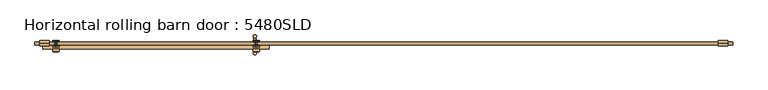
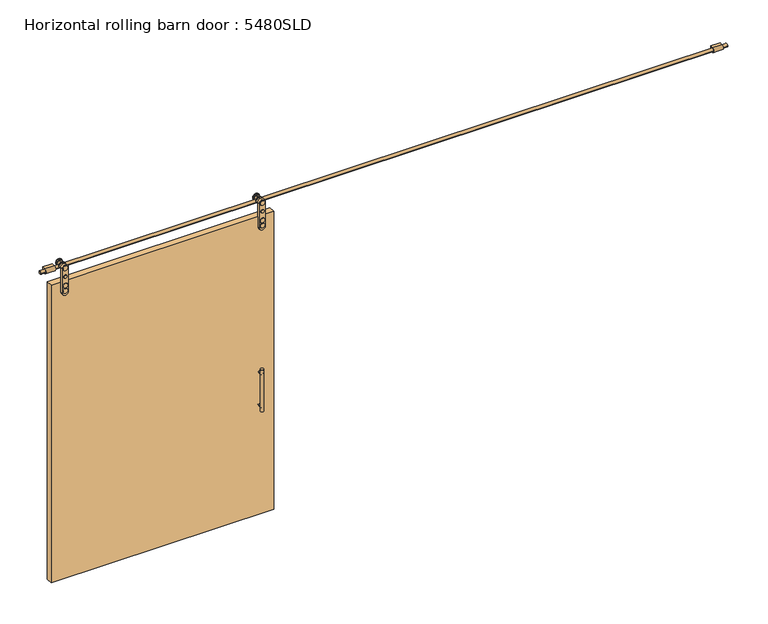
"""IFC4 building model written with IfcOpenShell, lengths in millimetres: door geometry, Horizontal rolling barn door : 5480SLD."""

from ifc_helpers import new_model, si_unit, point, frame, frame_2d, origin, origin_with_axes, place, context, project, spatial, polyline, circle_curve, ellipse_curve, trimmed, segment, composite_curve, outline, extrude, source, transform, mapped, element, save
from ifc_brep_helpers import plane_surface, cylinder_surface, revolved_surface, advanced_brep


def horizontal_rolling_barn_door_5480sld_e0d32aa0(model_context):
    return source(origin(), model_context, "Body", "SolidModel", [
        extrude(outline(polyline([(31.75, -127.0), (-1746.25, -127.0), (-1746.25, -76.2), (31.75, -76.2), (31.75, -127.0)])), origin_with_axes(), (0.0, 0.0, 1.0), 2514.6),
        extrude(outline(composite_curve([segment(trimmed(circle_curve(frame_2d((922.9256029, -79.640944)), 9.790944), [point((922.9256029, -89.4318879))], [point((922.9256029, -69.85))], False, "CARTESIAN"), True, "CONTINUOUS"), segment(trimmed(circle_curve(frame_2d((922.9256029, -79.640944)), 9.790944), [point((922.9256029, -69.85))], [point((922.9256029, -89.4318879))], False, "CARTESIAN"), True, "CONTINUOUS")], self_intersect=False)), frame((0.0, -127.0, 0.0), z_axis=(0.0, 1.0, 0.0), x_axis=(0.0, 0.0, 1.0)), (0.0, 0.0, 1.0), 88.9),
        extrude(outline(composite_curve([segment(trimmed(circle_curve(frame_2d((1202.3256029, -79.640944)), 9.790944), [point((1202.3256029, -89.4318879))], [point((1202.3256029, -69.85))], False, "CARTESIAN"), True, "CONTINUOUS"), segment(trimmed(circle_curve(frame_2d((1202.3256029, -79.640944)), 9.790944), [point((1202.3256029, -69.85))], [point((1202.3256029, -89.4318879))], False, "CARTESIAN"), True, "CONTINUOUS")], self_intersect=False)), frame((0.0, -127.0, 0.0), z_axis=(0.0, 1.0, 0.0), x_axis=(0.0, 0.0, 1.0)), (0.0, 0.0, 1.0), 88.9),
        extrude(outline(composite_curve([segment(trimmed(circle_curve(frame_2d((922.9256029, -79.640944)), 9.790944), [point((922.9256029, -89.4318879))], [point((922.9256029, -69.85))], False, "CARTESIAN"), True, "CONTINUOUS"), segment(trimmed(circle_curve(frame_2d((922.9256029, -79.640944)), 9.790944), [point((922.9256029, -69.85))], [point((922.9256029, -89.4318879))], False, "CARTESIAN"), True, "CONTINUOUS")], self_intersect=False)), frame((0.0, -165.1, 0.0), z_axis=(0.0, 1.0, 0.0), x_axis=(0.0, 0.0, 1.0)), (0.0, 0.0, 1.0), 38.1),
        extrude(outline(composite_curve([segment(trimmed(circle_curve(frame_2d((1202.3256029, -79.640944)), 9.790944), [point((1202.3256029, -89.4318879))], [point((1202.3256029, -69.85))], False, "CARTESIAN"), True, "CONTINUOUS"), segment(trimmed(circle_curve(frame_2d((1202.3256029, -79.640944)), 9.790944), [point((1202.3256029, -69.85))], [point((1202.3256029, -89.4318879))], False, "CARTESIAN"), True, "CONTINUOUS")], self_intersect=False)), frame((0.0, -165.1, 0.0), z_axis=(0.0, 1.0, 0.0), x_axis=(0.0, 0.0, 1.0)), (0.0, 0.0, 1.0), 38.1),
        advanced_brep(
        [(-69.85, -69.85, 2654.3), (-69.85, -69.85, 2616.2), (-69.85, -63.5, 2616.2), (-69.85, -63.5, 2654.3), (-69.85, -63.5, 2609.85), (-69.85, -63.5, 2660.65), (-69.85, -57.15, 2609.85), (-69.85, -57.15, 2660.65), (-69.85, -57.15, 2635.25), (-69.85, -107.95, 2635.25), (-69.85, -107.95, 2609.85), (-69.85, -107.95, 2660.65), (-69.85, -101.6, 2609.85), (-69.85, -101.6, 2660.65), (-69.85, -101.6, 2616.2), (-69.85, -101.6, 2654.3), (-69.85, -95.25, 2616.2), (-69.85, -95.25, 2654.3)],
        [
            (0, 1, circle_curve(frame((-69.85, -69.85, 2635.25), z_axis=(0.0, 1.0, 0.0), x_axis=(0.0, 0.0, -1.0)), 19.05)),
            (1, 2),
            (2, 3, circle_curve(frame((-69.85, -63.5, 2635.25), z_axis=(0.0, -1.0, 0.0), x_axis=(0.0, 0.0, -1.0)), 19.05)),
            (3, 0),
            (1, 0, circle_curve(frame((-69.85, -69.85, 2635.25), z_axis=(0.0, 1.0, 0.0), x_axis=(0.0, 0.0, -1.0)), 19.05)),
            (3, 2, circle_curve(frame((-69.85, -63.5, 2635.25), z_axis=(0.0, -1.0, 0.0), x_axis=(0.0, 0.0, -1.0)), 19.05)),
            (2, 4),
            (4, 5, circle_curve(frame((-69.85, -63.5, 2635.25), z_axis=(0.0, -1.0, 0.0), x_axis=(0.0, 0.0, -1.0)), 25.4)),
            (5, 3),
            (5, 4, circle_curve(frame((-69.85, -63.5, 2635.25), z_axis=(0.0, -1.0, 0.0), x_axis=(0.0, 0.0, -1.0)), 25.4)),
            (4, 6),
            (6, 7, circle_curve(frame((-69.85, -57.15, 2635.25), z_axis=(0.0, -1.0, 0.0), x_axis=(0.0, 0.0, -1.0)), 25.4)),
            (7, 5),
            (7, 6, circle_curve(frame((-69.85, -57.15, 2635.25), z_axis=(0.0, -1.0, 0.0), x_axis=(0.0, 0.0, -1.0)), 25.4)),
            (6, 8),
            (8, 7),
            (9, 10),
            (10, 11, circle_curve(frame((-69.85, -107.95, 2635.25), z_axis=(0.0, -1.0, 0.0), x_axis=(0.0, 0.0, -1.0)), 25.4)),
            (11, 9),
            (11, 10, circle_curve(frame((-69.85, -107.95, 2635.25), z_axis=(0.0, -1.0, 0.0), x_axis=(0.0, 0.0, -1.0)), 25.4)),
            (10, 12),
            (12, 13, circle_curve(frame((-69.85, -101.6, 2635.25), z_axis=(0.0, -1.0, 0.0), x_axis=(0.0, 0.0, -1.0)), 25.4)),
            (13, 11),
            (13, 12, circle_curve(frame((-69.85, -101.6, 2635.25), z_axis=(0.0, -1.0, 0.0), x_axis=(0.0, 0.0, -1.0)), 25.4)),
            (12, 14),
            (14, 15, circle_curve(frame((-69.85, -101.6, 2635.25), z_axis=(0.0, -1.0, 0.0), x_axis=(0.0, 0.0, -1.0)), 19.05)),
            (15, 13),
            (15, 14, circle_curve(frame((-69.85, -101.6, 2635.25), z_axis=(0.0, -1.0, 0.0), x_axis=(0.0, 0.0, -1.0)), 19.05)),
            (14, 16),
            (16, 17, circle_curve(frame((-69.85, -95.25, 2635.25), z_axis=(0.0, -1.0, 0.0), x_axis=(0.0, 0.0, -1.0)), 19.05)),
            (17, 15),
            (17, 16, circle_curve(frame((-69.85, -95.25, 2635.25), z_axis=(0.0, -1.0, 0.0), x_axis=(0.0, 0.0, -1.0)), 19.05)),
            (16, 1, circle_curve(frame((-69.85, -82.55, 2616.2), z_axis=(-1.0, 0.0, 0.0), x_axis=(0.0, 0.0, -1.0)), 12.7)),
            (0, 17, circle_curve(frame((-69.85, -82.55, 2654.3), z_axis=(-1.0, 0.0, 0.0), x_axis=(0.0, 0.0, 1.0)), 12.7)),
        ],
        [
            cylinder_surface(frame((-69.85, -57.15, 2635.25), z_axis=(0.0, -1.0, 0.0), x_axis=(0.0, 0.0, -1.0)), 19.05),
            plane_surface(frame((-69.85, -63.5, 2635.25), z_axis=(0.0, -1.0, 0.0), x_axis=(0.0, 0.0, -1.0))),
            cylinder_surface(frame((-69.85, -57.15, 2635.25), z_axis=(0.0, -1.0, 0.0), x_axis=(0.0, 0.0, -1.0)), 25.4),
            plane_surface(frame((-69.85, -57.15, 2635.25), z_axis=(0.0, 1.0, 0.0), x_axis=(0.0, 0.0, -1.0))),
            plane_surface(frame((-69.85, -107.95, 2635.25), z_axis=(0.0, -1.0, 0.0), x_axis=(0.0, 0.0, -1.0))),
            plane_surface(frame((-69.85, -101.6, 2635.25), z_axis=(0.0, 1.0, 0.0), x_axis=(0.0, 0.0, -1.0))),
            revolved_surface(trimmed(ellipse_curve(frame((-69.85, -82.55, 2616.2), z_axis=(1.0, 0.0, 0.0), x_axis=(0.0, 0.0, -1.0)), 12.7, 12.7), [point((-69.85, -69.85, 2616.2))], [point((-69.85, -95.25, 2616.2))], True, "CARTESIAN"), (-69.85, -57.15, 2635.25), (0.0, -1.0, 0.0)),
        ],
        [
            (0, [[1, 2, 3, 4]]),
            (0, [[5, -4, 6, -2]]),
            (1, [[-3, 7, 8, 9]]),
            (1, [[-6, -9, 10, -7]]),
            (2, [[-8, 11, 12, 13]]),
            (2, [[-10, -13, 14, -11]]),
            (3, [[-12, 15, 16]]),
            (3, [[-14, -16, -15]]),
            (4, [[17, 18, 19]]),
            (4, [[-19, 20, -17]]),
            (2, [[-18, 21, 22, 23]]),
            (2, [[-20, -23, 24, -21]]),
            (5, [[-22, 25, 26, 27]]),
            (5, [[-24, -27, 28, -25]]),
            (0, [[-26, 29, 30, 31]]),
            (0, [[-28, -31, 32, -29]]),
            (6, [[-30, 33, -1, 34]]),
            (6, [[-32, -34, -5, -33]]),
        ],
    ),
        advanced_brep(
        [(-1644.65, -63.5, 2654.3), (-1644.65, -63.5, 2616.2), (-1644.65, -69.85, 2616.2), (-1644.65, -69.85, 2654.3), (-1644.65, -63.5, 2660.65), (-1644.65, -63.5, 2609.85), (-1644.65, -57.15, 2660.65), (-1644.65, -57.15, 2609.85), (-1644.65, -57.15, 2635.25), (-1644.65, -107.95, 2660.65), (-1644.65, -107.95, 2609.85), (-1644.65, -107.95, 2635.25), (-1644.65, -101.6, 2660.65), (-1644.65, -101.6, 2609.85), (-1644.65, -101.6, 2654.3), (-1644.65, -101.6, 2616.2), (-1644.65, -95.25, 2654.3), (-1644.65, -95.25, 2616.2)],
        [
            (0, 1, circle_curve(frame((-1644.65, -63.5, 2635.25), z_axis=(0.0, -1.0, 0.0), x_axis=(0.0, 0.0, -1.0)), 19.05)),
            (1, 2),
            (2, 3, circle_curve(frame((-1644.65, -69.85, 2635.25), z_axis=(0.0, 1.0, 0.0), x_axis=(0.0, 0.0, -1.0)), 19.05)),
            (3, 0),
            (1, 0, circle_curve(frame((-1644.65, -63.5, 2635.25), z_axis=(0.0, -1.0, 0.0), x_axis=(0.0, 0.0, -1.0)), 19.05)),
            (3, 2, circle_curve(frame((-1644.65, -69.85, 2635.25), z_axis=(0.0, 1.0, 0.0), x_axis=(0.0, 0.0, -1.0)), 19.05)),
            (4, 5, circle_curve(frame((-1644.65, -63.5, 2635.25), z_axis=(0.0, -1.0, 0.0), x_axis=(0.0, 0.0, -1.0)), 25.4)),
            (5, 1),
            (0, 4),
            (5, 4, circle_curve(frame((-1644.65, -63.5, 2635.25), z_axis=(0.0, -1.0, 0.0), x_axis=(0.0, 0.0, -1.0)), 25.4)),
            (6, 7, circle_curve(frame((-1644.65, -57.15, 2635.25), z_axis=(0.0, -1.0, 0.0), x_axis=(0.0, 0.0, -1.0)), 25.4)),
            (7, 5),
            (4, 6),
            (7, 6, circle_curve(frame((-1644.65, -57.15, 2635.25), z_axis=(0.0, -1.0, 0.0), x_axis=(0.0, 0.0, -1.0)), 25.4)),
            (8, 7),
            (6, 8),
            (9, 10, circle_curve(frame((-1644.65, -107.95, 2635.25), z_axis=(0.0, -1.0, 0.0), x_axis=(0.0, 0.0, -1.0)), 25.4)),
            (10, 11),
            (11, 9),
            (10, 9, circle_curve(frame((-1644.65, -107.95, 2635.25), z_axis=(0.0, -1.0, 0.0), x_axis=(0.0, 0.0, -1.0)), 25.4)),
            (12, 13, circle_curve(frame((-1644.65, -101.6, 2635.25), z_axis=(0.0, -1.0, 0.0), x_axis=(0.0, 0.0, -1.0)), 25.4)),
            (13, 10),
            (9, 12),
            (13, 12, circle_curve(frame((-1644.65, -101.6, 2635.25), z_axis=(0.0, -1.0, 0.0), x_axis=(0.0, 0.0, -1.0)), 25.4)),
            (14, 15, circle_curve(frame((-1644.65, -101.6, 2635.25), z_axis=(0.0, -1.0, 0.0), x_axis=(0.0, 0.0, -1.0)), 19.05)),
            (15, 13),
            (12, 14),
            (15, 14, circle_curve(frame((-1644.65, -101.6, 2635.25), z_axis=(0.0, -1.0, 0.0), x_axis=(0.0, 0.0, -1.0)), 19.05)),
            (16, 17, circle_curve(frame((-1644.65, -95.25, 2635.25), z_axis=(0.0, -1.0, 0.0), x_axis=(0.0, 0.0, -1.0)), 19.05)),
            (17, 15),
            (14, 16),
            (17, 16, circle_curve(frame((-1644.65, -95.25, 2635.25), z_axis=(0.0, -1.0, 0.0), x_axis=(0.0, 0.0, -1.0)), 19.05)),
            (2, 17, circle_curve(frame((-1644.65, -82.55, 2616.2), z_axis=(1.0, 0.0, 0.0), x_axis=(0.0, 0.0, -1.0)), 12.7)),
            (16, 3, circle_curve(frame((-1644.65, -82.55, 2654.3), z_axis=(1.0, 0.0, 0.0), x_axis=(0.0, 0.0, 1.0)), 12.7)),
        ],
        [
            cylinder_surface(frame((-1644.65, -57.15, 2635.25), z_axis=(0.0, 1.0, 0.0), x_axis=(0.0, 0.0, -1.0)), 19.05),
            plane_surface(frame((-1644.65, -63.5, 2635.25), z_axis=(0.0, -1.0, 0.0), x_axis=(0.0, 0.0, -1.0))),
            cylinder_surface(frame((-1644.65, -57.15, 2635.25), z_axis=(0.0, 1.0, 0.0), x_axis=(0.0, 0.0, -1.0)), 25.4),
            plane_surface(frame((-1644.65, -57.15, 2635.25), z_axis=(0.0, 1.0, 0.0), x_axis=(0.0, 0.0, -1.0))),
            plane_surface(frame((-1644.65, -107.95, 2635.25), z_axis=(0.0, -1.0, 0.0), x_axis=(0.0, 0.0, -1.0))),
            plane_surface(frame((-1644.65, -101.6, 2635.25), z_axis=(0.0, 1.0, 0.0), x_axis=(0.0, 0.0, -1.0))),
            revolved_surface(trimmed(ellipse_curve(frame((-1644.65, -82.55, 2616.2), z_axis=(-1.0, 0.0, 0.0), x_axis=(0.0, 0.0, -1.0)), 12.7, 12.7), [point((-1644.65, -95.25, 2616.2))], [point((-1644.65, -69.85, 2616.2))], True, "CARTESIAN"), (-1644.65, -57.15, 2635.25), (0.0, 1.0, 0.0)),
        ],
        [
            (0, [[1, 2, 3, 4]]),
            (0, [[5, -4, 6, -2]]),
            (1, [[7, 8, -1, 9]]),
            (1, [[10, -9, -5, -8]]),
            (2, [[11, 12, -7, 13]]),
            (2, [[14, -13, -10, -12]]),
            (3, [[15, -11, 16]]),
            (3, [[-16, -14, -15]]),
            (4, [[17, 18, 19]]),
            (4, [[20, -19, -18]]),
            (2, [[21, 22, -17, 23]]),
            (2, [[24, -23, -20, -22]]),
            (5, [[25, 26, -21, 27]]),
            (5, [[28, -27, -24, -26]]),
            (0, [[29, 30, -25, 31]]),
            (0, [[32, -31, -28, -30]]),
            (6, [[-3, 33, -29, 34]]),
            (6, [[-6, -34, -32, -33]]),
        ],
    ),
        extrude(outline(composite_curve([segment(polyline([(-57.15, 2635.25), (-57.15, 2597.15), (-82.55, 2597.15)]), True, "CONTINUOUS"), segment(trimmed(circle_curve(frame_2d((-82.55, 2616.2)), 19.05), [point((-82.55, 2597.15))], [point((-82.55, 2635.25))], False, "CARTESIAN"), True, "CONTINUOUS"), segment(polyline([(-82.55, 2635.25), (-57.15, 2635.25)]), True, "CONTINUOUS")], self_intersect=False), holes=[composite_curve([segment(trimmed(circle_curve(frame_2d((-82.55, 2616.2)), 12.7), [point((-69.85, 2616.2))], [point((-95.25, 2616.2))], True, "CARTESIAN"), True, "CONTINUOUS"), segment(trimmed(circle_curve(frame_2d((-82.55, 2616.2)), 12.7), [point((-95.25, 2616.2))], [point((-69.85, 2616.2))], True, "CARTESIAN"), True, "CONTINUOUS")], self_intersect=False)]), frame((3562.5484375, 0.0, 0.0), z_axis=(1.0, 0.0, 0.0), x_axis=(0.0, 1.0, 0.0)), (0.0, 0.0, 1.0), 76.2),
        extrude(outline(composite_curve([segment(trimmed(circle_curve(frame_2d((2635.25, -1644.65)), 19.05), [point((2635.25, -1663.7))], [point((2635.25, -1625.6))], False, "CARTESIAN"), True, "CONTINUOUS"), segment(trimmed(circle_curve(frame_2d((2635.25, -1644.65)), 19.05), [point((2635.25, -1625.6))], [point((2635.25, -1663.7))], False, "CARTESIAN"), True, "CONTINUOUS")], self_intersect=False)), frame((0.0, -149.225, 0.0), z_axis=(0.0, 1.0, 0.0), x_axis=(0.0, 0.0, 1.0)), (0.0, 0.0, 1.0), 3.175),
        extrude(outline(composite_curve([segment(trimmed(circle_curve(frame_2d((2565.4, -1644.65)), 12.7), [point((2565.4, -1657.35))], [point((2565.4, -1631.95))], False, "CARTESIAN"), True, "CONTINUOUS"), segment(trimmed(circle_curve(frame_2d((2565.4, -1644.65)), 12.7), [point((2565.4, -1631.95))], [point((2565.4, -1657.35))], False, "CARTESIAN"), True, "CONTINUOUS")], self_intersect=False)), frame((0.0, -149.225, 0.0), z_axis=(0.0, 1.0, 0.0), x_axis=(0.0, 0.0, 1.0)), (0.0, 0.0, 1.0), 3.175),
        extrude(outline(composite_curve([segment(trimmed(circle_curve(frame_2d((2635.25, -69.85)), 19.05), [point((2635.25, -88.9))], [point((2635.25, -50.8))], False, "CARTESIAN"), True, "CONTINUOUS"), segment(trimmed(circle_curve(frame_2d((2635.25, -69.85)), 19.05), [point((2635.25, -50.8))], [point((2635.25, -88.9))], False, "CARTESIAN"), True, "CONTINUOUS")], self_intersect=False)), frame((0.0, -149.225, 0.0), z_axis=(0.0, 1.0, 0.0), x_axis=(0.0, 0.0, 1.0)), (0.0, 0.0, 1.0), 3.175),
        extrude(outline(composite_curve([segment(trimmed(circle_curve(frame_2d((2565.4, -69.85)), 12.7), [point((2565.4, -82.55))], [point((2565.4, -57.15))], False, "CARTESIAN"), True, "CONTINUOUS"), segment(trimmed(circle_curve(frame_2d((2565.4, -69.85)), 12.7), [point((2565.4, -57.15))], [point((2565.4, -82.55))], False, "CARTESIAN"), True, "CONTINUOUS")], self_intersect=False)), frame((0.0, -149.225, 0.0), z_axis=(0.0, 1.0, 0.0), x_axis=(0.0, 0.0, 1.0)), (0.0, 0.0, 1.0), 3.175),
        extrude(outline(composite_curve([segment(polyline([(-57.15, 2635.25), (-57.15, 2597.15), (-82.55, 2597.15)]), True, "CONTINUOUS"), segment(trimmed(circle_curve(frame_2d((-82.55, 2616.2)), 19.05), [point((-82.55, 2597.15))], [point((-82.55, 2635.25))], False, "CARTESIAN"), True, "CONTINUOUS"), segment(polyline([(-82.55, 2635.25), (-57.15, 2635.25)]), True, "CONTINUOUS")], self_intersect=False), holes=[composite_curve([segment(trimmed(circle_curve(frame_2d((-82.55, 2616.2)), 12.7), [point((-69.85, 2616.2))], [point((-95.25, 2616.2))], True, "CARTESIAN"), True, "CONTINUOUS"), segment(trimmed(circle_curve(frame_2d((-82.55, 2616.2)), 12.7), [point((-95.25, 2616.2))], [point((-69.85, 2616.2))], True, "CARTESIAN"), True, "CONTINUOUS")], self_intersect=False)]), frame((-1771.65, 0.0, 0.0), z_axis=(1.0, 0.0, 0.0), x_axis=(0.0, 1.0, 0.0)), (0.0, 0.0, 1.0), 76.2),
        extrude(outline(composite_curve([segment(trimmed(circle_curve(frame_2d((-82.55, 2616.2)), 12.7), [point((-69.85, 2616.2))], [point((-95.25, 2616.2))], False, "CARTESIAN"), True, "CONTINUOUS"), segment(trimmed(circle_curve(frame_2d((-82.55, 2616.2)), 12.7), [point((-95.25, 2616.2))], [point((-69.85, 2616.2))], False, "CARTESIAN"), True, "CONTINUOUS")], self_intersect=False)), frame((-1809.5515625, 0.0, 0.0), z_axis=(1.0, 0.0, 0.0), x_axis=(0.0, 1.0, 0.0)), (0.0, 0.0, 1.0), 5486.4),
        extrude(outline(composite_curve([segment(trimmed(circle_curve(frame_2d((2489.2, -1644.65)), 19.05), [point((2489.2, -1663.7))], [point((2489.2, -1625.6))], False, "CARTESIAN"), True, "CONTINUOUS"), segment(trimmed(circle_curve(frame_2d((2489.2, -1644.65)), 19.05), [point((2489.2, -1625.6))], [point((2489.2, -1663.7))], False, "CARTESIAN"), True, "CONTINUOUS")], self_intersect=False)), frame((0.0, -149.225, 0.0), z_axis=(0.0, 1.0, 0.0), x_axis=(0.0, 0.0, 1.0)), (0.0, 0.0, 1.0), 73.025),
        extrude(outline(composite_curve([segment(trimmed(circle_curve(frame_2d((2444.75, -1644.65)), 19.05), [point((2444.75, -1663.7))], [point((2444.75, -1625.6))], False, "CARTESIAN"), True, "CONTINUOUS"), segment(trimmed(circle_curve(frame_2d((2444.75, -1644.65)), 19.05), [point((2444.75, -1625.6))], [point((2444.75, -1663.7))], False, "CARTESIAN"), True, "CONTINUOUS")], self_intersect=False)), frame((0.0, -149.225, 0.0), z_axis=(0.0, 1.0, 0.0), x_axis=(0.0, 0.0, 1.0)), (0.0, 0.0, 1.0), 73.025),
        extrude(outline(composite_curve([segment(trimmed(circle_curve(frame_2d((2489.2, -69.85)), 19.05), [point((2489.2, -88.9))], [point((2489.2, -50.8))], False, "CARTESIAN"), True, "CONTINUOUS"), segment(trimmed(circle_curve(frame_2d((2489.2, -69.85)), 19.05), [point((2489.2, -50.8))], [point((2489.2, -88.9))], False, "CARTESIAN"), True, "CONTINUOUS")], self_intersect=False)), frame((0.0, -149.225, 0.0), z_axis=(0.0, 1.0, 0.0), x_axis=(0.0, 0.0, 1.0)), (0.0, 0.0, 1.0), 73.025),
        extrude(outline(composite_curve([segment(trimmed(circle_curve(frame_2d((2444.75, -69.85)), 19.05), [point((2444.75, -88.9))], [point((2444.75, -50.8))], False, "CARTESIAN"), True, "CONTINUOUS"), segment(trimmed(circle_curve(frame_2d((2444.75, -69.85)), 19.05), [point((2444.75, -50.8))], [point((2444.75, -88.9))], False, "CARTESIAN"), True, "CONTINUOUS")], self_intersect=False)), frame((0.0, -149.225, 0.0), z_axis=(0.0, 1.0, 0.0), x_axis=(0.0, 0.0, 1.0)), (0.0, 0.0, 1.0), 73.025),
        extrude(outline(composite_curve([segment(polyline([(2635.25, -1670.05), (2432.05, -1670.05)]), True, "CONTINUOUS"), segment(trimmed(circle_curve(frame_2d((2432.05, -1644.65)), 25.4), [point((2432.05, -1670.05))], [point((2432.05, -1619.25))], False, "CARTESIAN"), True, "CONTINUOUS"), segment(polyline([(2432.05, -1619.25), (2635.25, -1619.25)]), True, "CONTINUOUS"), segment(trimmed(circle_curve(frame_2d((2635.25, -1644.65)), 25.4), [point((2635.25, -1619.25))], [point((2635.25, -1670.05))], False, "CARTESIAN"), True, "CONTINUOUS")], self_intersect=False)), frame((0.0, -146.05, 0.0), z_axis=(0.0, 1.0, 0.0), x_axis=(0.0, 0.0, 1.0)), (0.0, 0.0, 1.0), 19.05),
        extrude(outline(composite_curve([segment(trimmed(circle_curve(frame_2d((2635.25, -69.85)), 25.4), [point((2635.25, -44.45))], [point((2635.25, -95.25))], False, "CARTESIAN"), True, "CONTINUOUS"), segment(polyline([(2635.25, -95.25), (2432.05, -95.25)]), True, "CONTINUOUS"), segment(trimmed(circle_curve(frame_2d((2432.05, -69.85)), 25.4), [point((2432.05, -95.25))], [point((2432.05, -44.45))], False, "CARTESIAN"), True, "CONTINUOUS"), segment(polyline([(2432.05, -44.45), (2635.25, -44.45)]), True, "CONTINUOUS")], self_intersect=False)), frame((0.0, -146.05, 0.0), z_axis=(0.0, 1.0, 0.0), x_axis=(0.0, 0.0, 1.0)), (0.0, 0.0, 1.0), 19.05),
        extrude(outline(composite_curve([segment(trimmed(circle_curve(frame_2d((-79.640944, -25.4)), 12.7), [point((-92.340944, -25.4))], [point((-66.940944, -25.4))], False, "CARTESIAN"), True, "CONTINUOUS"), segment(trimmed(circle_curve(frame_2d((-79.640944, -25.4)), 12.7), [point((-66.940944, -25.4))], [point((-92.340944, -25.4))], False, "CARTESIAN"), True, "CONTINUOUS")], self_intersect=False)), frame((0.0, 0.0, 889.091274), z_axis=(0.0, 0.0, 1.0), x_axis=(1.0, 0.0, 0.0)), (0.0, 0.0, 1.0), 351.3343289),
        extrude(outline(composite_curve([segment(trimmed(circle_curve(frame_2d((-79.640944, -158.75)), 12.7), [point((-92.340944, -158.75))], [point((-66.940944, -158.75))], False, "CARTESIAN"), True, "CONTINUOUS"), segment(trimmed(circle_curve(frame_2d((-79.640944, -158.75)), 12.7), [point((-66.940944, -158.75))], [point((-92.340944, -158.75))], False, "CARTESIAN"), True, "CONTINUOUS")], self_intersect=False)), frame((0.0, 0.0, 889.091274), z_axis=(0.0, 0.0, 1.0), x_axis=(1.0, 0.0, 0.0)), (0.0, 0.0, 1.0), 351.3343289),
    ])


if __name__ == "__main__":
    model = new_model("IFC4")
    model_context = context("Model", 3, world=origin())
    ifc_project = project(units=[si_unit("LENGTHUNIT", "METRE", prefix="MILLI")], contexts=[model_context])
    site = spatial("IfcSite", under=ifc_project)
    building = spatial("IfcBuilding", under=site)
    placement = place(None, origin())
    horizontal_rolling_barn_door_5480sld_shape = horizontal_rolling_barn_door_5480sld_e0d32aa0(model_context)
    element("IfcDoor", 1, ObjectType="Horizontal rolling barn door : 5480SLD", at=placement, inside=building, context=model_context, shape_type="MappedRepresentation", body=[
        mapped(horizontal_rolling_barn_door_5480sld_shape, transform((0.0, 0.0, 0.0), x_axis=(1.0, 0.0, 0.0), y_axis=(0.0, 1.0, 0.0), z_axis=(0.0, 0.0, 1.0))),
    ])
    save(model, "model.ifc")
